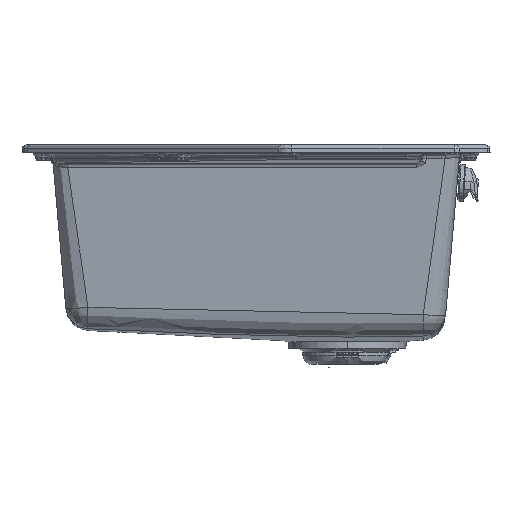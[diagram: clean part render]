
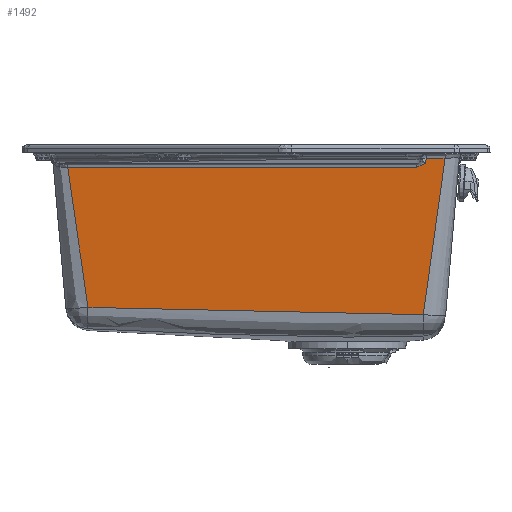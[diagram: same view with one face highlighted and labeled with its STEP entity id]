
A CAD part, front view. The second image highlights one B-rep face of the part: STEP entity #1492.
In plain terms, the highlighted planar face has unit normal (0, -0.996, -0.087).
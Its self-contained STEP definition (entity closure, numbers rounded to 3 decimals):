
#1492=ADVANCED_FACE('',(#3285),#30394,.T.);
#3285=FACE_OUTER_BOUND('',#5148,.T.);
#5148=EDGE_LOOP('',(#13029,#13030,#13031,#13032,#13033,#13034,#13035));
#13029=ORIENTED_EDGE('',*,*,#18660,.F.);
#13030=ORIENTED_EDGE('',*,*,#18633,.T.);
#13031=ORIENTED_EDGE('',*,*,#18662,.T.);
#13032=ORIENTED_EDGE('',*,*,#18670,.T.);
#13033=ORIENTED_EDGE('',*,*,#18664,.T.);
#13034=ORIENTED_EDGE('',*,*,#18663,.T.);
#13035=ORIENTED_EDGE('',*,*,#18657,.T.);
#18633=EDGE_CURVE('',#28494,#28493,#22137,.T.);
#18657=EDGE_CURVE('',#28523,#28524,#22150,.T.);
#18660=EDGE_CURVE('',#28494,#28524,#22152,.T.);
#18662=EDGE_CURVE('',#28493,#28525,#22153,.T.);
#18663=EDGE_CURVE('',#28527,#28523,#22154,.T.);
#18664=EDGE_CURVE('',#28526,#28527,#22155,.T.);
#18670=EDGE_CURVE('',#28525,#28526,#22159,.T.);
#22137=B_SPLINE_CURVE_WITH_KNOTS('',1,(#74325,#74326),.UNSPECIFIED.,.F.,
 .F.,(2,2),(-372.875,0.),.UNSPECIFIED.);
#22150=B_SPLINE_CURVE_WITH_KNOTS('',1,(#74453,#74454),.UNSPECIFIED.,.F.,
 .F.,(2,2),(-5.407,0.),.UNSPECIFIED.);
#22152=B_SPLINE_CURVE_WITH_KNOTS('',3,(#74460,#74461,#74462,#74463,#74464,
#74465,#74466),.UNSPECIFIED.,.F.,.F.,(4,1,1,1,4),(-1.,-0.333,
-0.25,-0.167,0.),.UNSPECIFIED.);
#22153=B_SPLINE_CURVE_WITH_KNOTS('',1,(#74480,#74481),.UNSPECIFIED.,.F.,
 .F.,(2,2),(0.,151.669),.UNSPECIFIED.);
#22154=B_SPLINE_CURVE_WITH_KNOTS('',1,(#74482,#74483),.UNSPECIFIED.,.F.,
 .F.,(2,2),(0.,20.263),.UNSPECIFIED.);
#22155=B_SPLINE_CURVE_WITH_KNOTS('',1,(#74484,#74485),.UNSPECIFIED.,.F.,
 .F.,(2,2),(-169.434,0.),.UNSPECIFIED.);
#22159=B_SPLINE_CURVE_WITH_KNOTS('',3,(#74812,#74813,#74814,#74815,#74816,
#74817,#74818,#74819,#74820,#74821,#74822,#74823,#74824,#74825,#74826,#74827,
#74828,#74829,#74830,#74831),.UNSPECIFIED.,.F.,.F.,(4,2,2,2,2,2,2,2,2,4),
(-358.381,-357.283,-268.051,-223.461,
-178.906,-134.395,-89.933,-45.482,
-0.992,0.),.UNSPECIFIED.);
#28493=VERTEX_POINT('',#71305);
#28494=VERTEX_POINT('',#71306);
#28523=VERTEX_POINT('',#71335);
#28524=VERTEX_POINT('',#71336);
#28525=VERTEX_POINT('',#71337);
#28526=VERTEX_POINT('',#71338);
#28527=VERTEX_POINT('',#71339);
#30394=PLANE('',#32940);
#32940=AXIS2_PLACEMENT_3D('',#66046,#36912,$);
#36912=DIRECTION('',(0.,-0.996,-0.087));
#66046=CARTESIAN_POINT('',(204.004,-180.611,-6.564));
#71305=CARTESIAN_POINT('',(-199.115,-179.748,-16.426));
#71306=CARTESIAN_POINT('',(173.76,-179.748,-16.426));
#71335=CARTESIAN_POINT('',(183.742,-180.611,-6.564));
#71336=CARTESIAN_POINT('',(183.272,-180.141,-11.93));
#71337=CARTESIAN_POINT('',(-177.491,-166.664,-165.974));
#71338=CARTESIAN_POINT('',(180.708,-165.984,-173.75));
#71339=CARTESIAN_POINT('',(204.004,-180.611,-6.564));
#74325=CARTESIAN_POINT('',(173.76,-179.748,-16.426));
#74326=CARTESIAN_POINT('',(-199.115,-179.748,-16.426));
#74453=CARTESIAN_POINT('',(183.742,-180.611,-6.564));
#74454=CARTESIAN_POINT('',(183.272,-180.141,-11.93));
#74460=CARTESIAN_POINT('',(173.76,-179.748,-16.426));
#74461=CARTESIAN_POINT('',(176.1,-179.748,-16.426));
#74462=CARTESIAN_POINT('',(178.393,-179.879,-14.927));
#74463=CARTESIAN_POINT('',(180.941,-180.025,-13.262));
#74464=CARTESIAN_POINT('',(181.965,-180.081,-12.617));
#74465=CARTESIAN_POINT('',(182.744,-180.119,-12.18));
#74466=CARTESIAN_POINT('',(183.272,-180.141,-11.93));
#74480=CARTESIAN_POINT('',(-199.115,-179.748,-16.426));
#74481=CARTESIAN_POINT('',(-177.491,-166.664,-165.974));
#74482=CARTESIAN_POINT('',(204.004,-180.611,-6.564));
#74483=CARTESIAN_POINT('',(183.742,-180.611,-6.564));
#74484=CARTESIAN_POINT('',(180.708,-165.984,-173.75));
#74485=CARTESIAN_POINT('',(204.004,-180.611,-6.564));
#74812=CARTESIAN_POINT('',(-177.491,-166.664,-165.974));
#74813=CARTESIAN_POINT('',(-177.126,-166.663,-165.991));
#74814=CARTESIAN_POINT('',(-176.76,-166.661,-166.009));
#74815=CARTESIAN_POINT('',(-146.683,-166.538,-167.413));
#74816=CARTESIAN_POINT('',(-116.97,-166.42,-168.76));
#74817=CARTESIAN_POINT('',(-72.402,-166.257,-170.627));
#74818=CARTESIAN_POINT('',(-57.551,-166.205,-171.223));
#74819=CARTESIAN_POINT('',(-27.857,-166.108,-172.331));
#74820=CARTESIAN_POINT('',(-13.015,-166.063,-172.843));
#74821=CARTESIAN_POINT('',(16.66,-165.985,-173.731));
#74822=CARTESIAN_POINT('',(31.493,-165.953,-174.107));
#74823=CARTESIAN_POINT('',(61.145,-165.904,-174.658));
#74824=CARTESIAN_POINT('',(75.965,-165.889,-174.831));
#74825=CARTESIAN_POINT('',(105.603,-165.881,-174.927));
#74826=CARTESIAN_POINT('',(120.42,-165.888,-174.85));
#74827=CARTESIAN_POINT('',(150.065,-165.921,-174.467));
#74828=CARTESIAN_POINT('',(164.892,-165.948,-174.162));
#74829=CARTESIAN_POINT('',(180.047,-165.982,-173.768));
#74830=CARTESIAN_POINT('',(180.378,-165.983,-173.759));
#74831=CARTESIAN_POINT('',(180.708,-165.984,-173.75));
